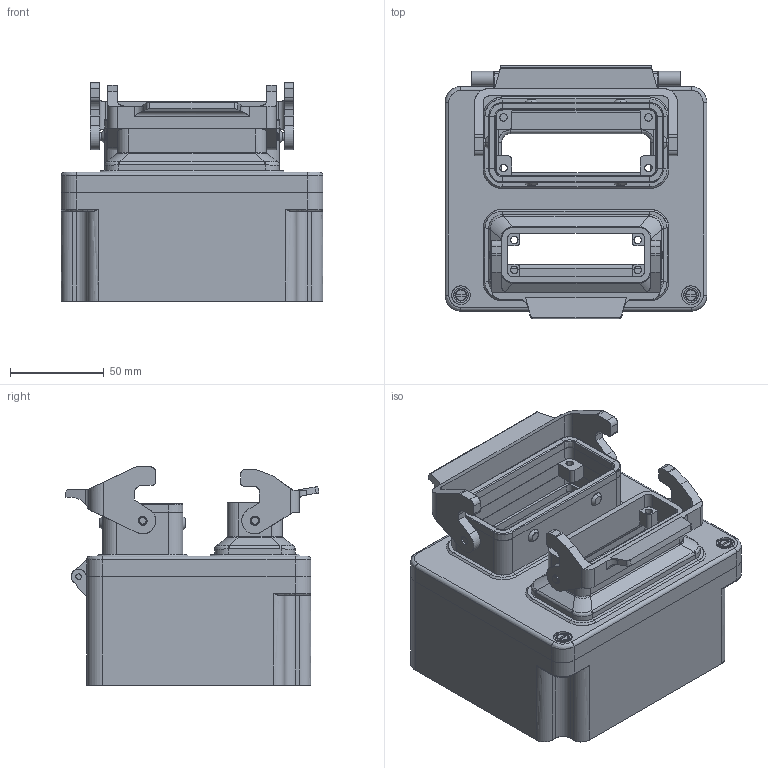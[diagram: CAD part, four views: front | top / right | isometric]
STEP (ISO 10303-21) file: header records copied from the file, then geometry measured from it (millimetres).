
FILE_DESCRIPTION( ( 'STEP AP214' ), '1' );
FILE_NAME( 'C:/Dokumente und Einstellungen/Administrator/Desktop/47 Kabelboxen/G3/12/gr_3_16e_16a-bb.stp', '2006-09-10T18:07:44', ( ' ' ), ( ' ' ), 'XStep 1.0', 'VISICAD', ' ' );
FILE_SCHEMA( ( 'automotive_design' ) );
Length unit declared in the file: millimetre
Products named in the file (1098): 1; 2; 3; 4; 5; 6; 7; 8; 9; 10; 11; 12; 13; 14; 15; 16; 17; 18; 19; 20; 21; 22; 23; 24; 25; 26; 27; 28; 29; 30; 31; 32; 33; 34; 35; 36; 37; 38; 39; 40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
Bounding box: 140 x 135.72 x 116.7 mm (x, y, z)
Surface area: 173369.9 mm2 (no closed solid volume)
Topology: 0 solids, 1108 shells, 1108 faces, 5580 edges, 5580 vertices
Faces by surface type: bspline 488, plane 485, revolution 90, cylinder 45
Entity records: 124625 total; most frequent: CARTESIAN_POINT 60238, DIRECTION 6985, ORIENTED_EDGE 5580, EDGE_CURVE 5580, VERTEX_POINT 5580, LINE 3019, VECTOR 3019, B_SPLINE_CURVE_WITH_KNOTS 2325
